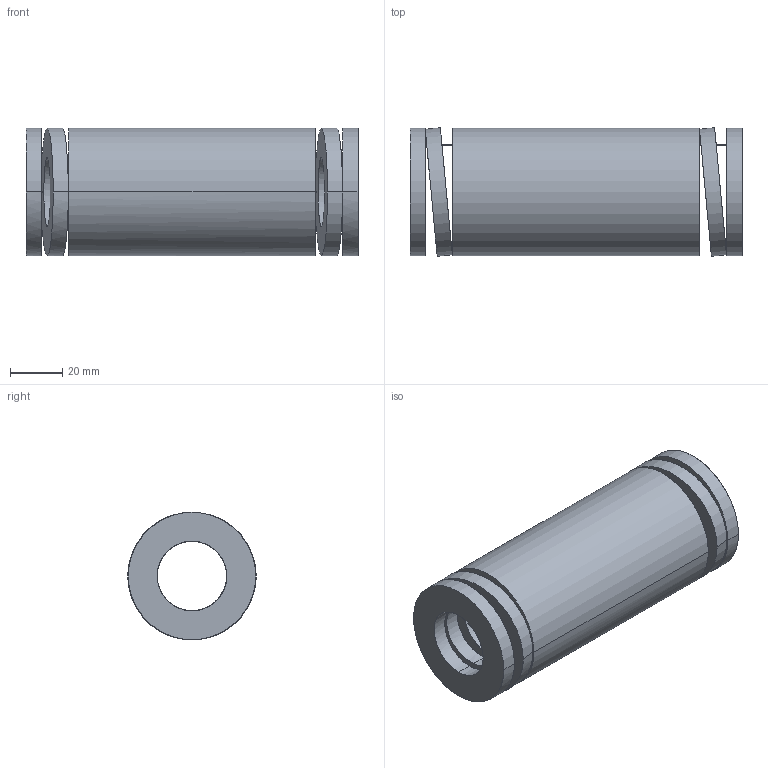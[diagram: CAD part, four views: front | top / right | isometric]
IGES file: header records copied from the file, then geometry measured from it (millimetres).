
Start section: START RECORD GO HERE.
Global section: file name: 392-B50-127.igs; native system: DASSAULT SYSTEMES CATIA V5 R20 - www.3ds.com; preprocessor: CATIA Version 5 Release 20 ; author: Utente; organization: NB04-ASUS; date: 20210813.132847; units: millimetre
Bounding box: 127 x 49.13 x 48.8 mm (x, y, z)
Surface area: 41007.7 mm2 (no closed solid volume)
Topology: 0 solids, 0 shells, 38 faces, 184 edges, 184 vertices
Faces by surface type: revolution 28, plane 10
